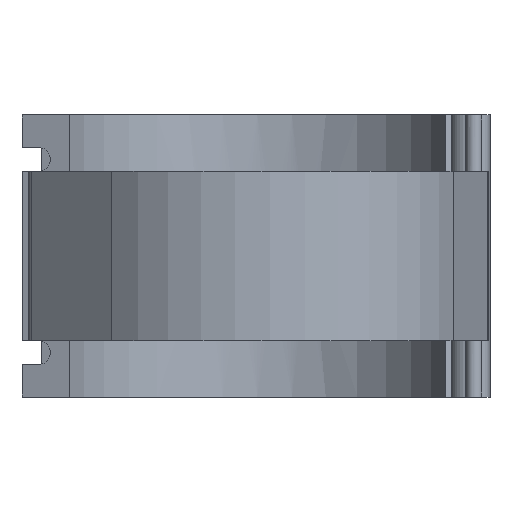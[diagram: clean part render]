
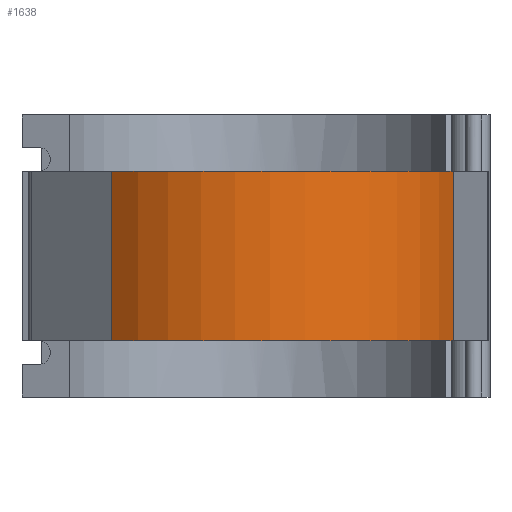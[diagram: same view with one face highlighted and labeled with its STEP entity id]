
A CAD part, front view. The second image highlights one B-rep face of the part: STEP entity #1638.
In plain terms, the highlighted cylindrical face has radius 128.75 mm (diameter 257.5 mm), a partial arc.
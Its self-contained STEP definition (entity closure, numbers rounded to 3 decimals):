
#190=FACE_OUTER_BOUND('',#301,.T.);
#301=EDGE_LOOP('',(#1488,#1489,#1490,#1491));
#397=CIRCLE('',#1831,128.75);
#400=CIRCLE('',#1835,128.75);
#518=LINE('',#3391,#632);
#522=LINE('',#3400,#636);
#632=VECTOR('',#2332,10.);
#636=VECTOR('',#2346,10.);
#785=VERTEX_POINT('',#3354);
#786=VERTEX_POINT('',#3356);
#789=VERTEX_POINT('',#3364);
#790=VERTEX_POINT('',#3366);
#1007=EDGE_CURVE('',#785,#786,#397,.T.);
#1012=EDGE_CURVE('',#789,#790,#400,.T.);
#1026=EDGE_CURVE('',#789,#786,#518,.T.);
#1030=EDGE_CURVE('',#785,#790,#522,.T.);
#1488=ORIENTED_EDGE('',*,*,#1030,.T.);
#1489=ORIENTED_EDGE('',*,*,#1012,.F.);
#1490=ORIENTED_EDGE('',*,*,#1026,.T.);
#1491=ORIENTED_EDGE('',*,*,#1007,.F.);
#1548=CYLINDRICAL_SURFACE('',#1850,128.75);
#1638=ADVANCED_FACE('',(#190),#1548,.T.);
#1831=AXIS2_PLACEMENT_3D('',#3357,#2294,#2295);
#1835=AXIS2_PLACEMENT_3D('',#3367,#2304,#2305);
#1850=AXIS2_PLACEMENT_3D('',#3401,#2347,#2348);
#2294=DIRECTION('center_axis',(0.,0.,-1.));
#2295=DIRECTION('ref_axis',(0.707,0.707,0.));
#2304=DIRECTION('center_axis',(0.,0.,1.));
#2305=DIRECTION('ref_axis',(0.707,0.707,0.));
#2332=DIRECTION('',(0.,0.,-1.));
#2346=DIRECTION('',(0.,0.,1.));
#2347=DIRECTION('center_axis',(0.,0.,1.));
#2348=DIRECTION('ref_axis',(0.707,0.707,0.));
#3354=CARTESIAN_POINT('',(122.192,-40.568,-52.8));
#3356=CARTESIAN_POINT('',(-91.048,-91.032,-52.8));
#3357=CARTESIAN_POINT('Origin',(0.,0.,
-52.8));
#3364=CARTESIAN_POINT('',(-91.048,-91.032,52.8));
#3366=CARTESIAN_POINT('',(122.192,-40.568,52.8));
#3367=CARTESIAN_POINT('Origin',(0.,0.,
52.8));
#3391=CARTESIAN_POINT('',(-91.048,-91.032,0.));
#3400=CARTESIAN_POINT('',(122.192,-40.568,0.));
#3401=CARTESIAN_POINT('Origin',(0.,0.,
0.));
